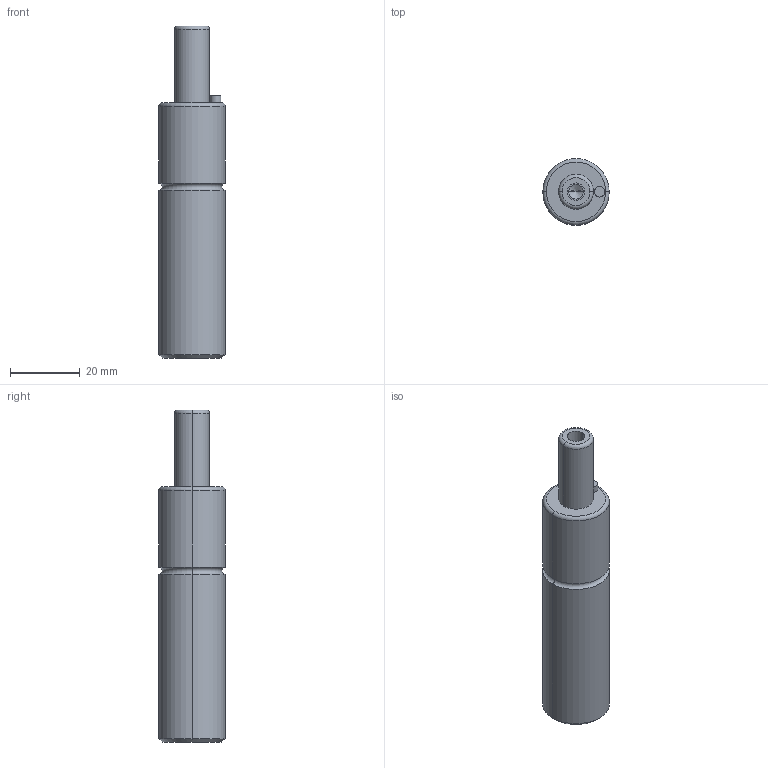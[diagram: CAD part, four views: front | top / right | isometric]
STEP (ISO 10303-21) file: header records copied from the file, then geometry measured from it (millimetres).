
FILE_DESCRIPTION(/* description */ (''),/* implementation_level */ '2;1');
FILE_NAME(/* name */ '3d_gsm19-20_03907_r00.stp',/* time_stamp */ '2011-01-10T14:15:17+09:00',/* author */ ('MISUMI'),/* organization */ (''),/* preprocessor_version */ 'ST-DEVELOPER v11',/* originating_system */ 'UGS - NX 5.0',/* authorisation */ '');
FILE_SCHEMA (('CONFIG_CONTROL_DESIGN'));
Length unit declared in the file: millimetre
Products named in the file (1): 3d_gsm19-20_03907_r00
Bounding box: 19 x 19 x 95 mm (x, y, z)
Volume: 21861.9 mm3; surface area: 5932.4 mm2
Topology: 1 solids, 1 shells, 34 faces, 70 edges, 40 vertices
Faces by surface type: cylinder 16, cone 6, plane 6, torus 6
Entity records: 964 total; most frequent: DIRECTION 180, CARTESIAN_POINT 141, ORIENTED_EDGE 132, AXIS2_PLACEMENT_3D 79, EDGE_CURVE 66, CIRCLE 44, EDGE_LOOP 40, VERTEX_POINT 40
